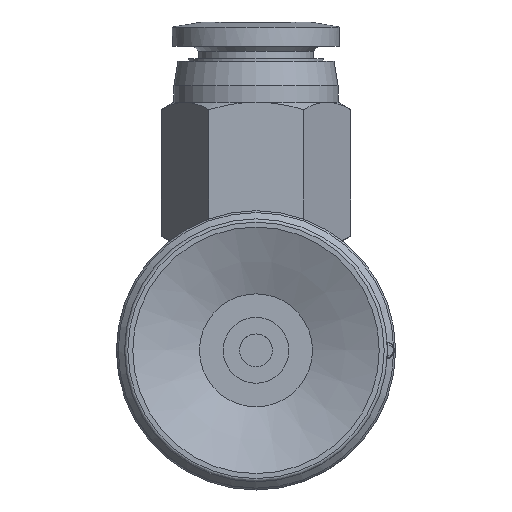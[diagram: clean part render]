
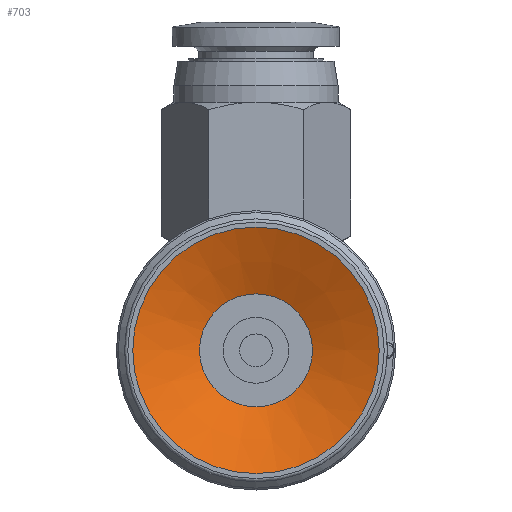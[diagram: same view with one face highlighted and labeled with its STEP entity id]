
A CAD part, front view. The second image highlights one B-rep face of the part: STEP entity #703.
In plain terms, the highlighted conical face has half-angle 67.5 degrees and reference radius 3.437 mm.
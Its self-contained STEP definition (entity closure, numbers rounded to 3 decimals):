
#703=ADVANCED_FACE('',(#1035,#1036),#1037,.F.);
#1035=FACE_BOUND('',#2491,.T.);
#1036=FACE_OUTER_BOUND('',#2492,.T.);
#1037=CONICAL_SURFACE('',#2493,3.437,1.178);
#2491=EDGE_LOOP('',(#3631));
#2492=EDGE_LOOP('',(#3632));
#2493=AXIS2_PLACEMENT_3D('',#3633,#3634,#3635);
#3631=ORIENTED_EDGE('',*,*,#4269,.F.);
#3632=ORIENTED_EDGE('',*,*,#4270,.T.);
#3633=CARTESIAN_POINT('',(0.0,0.0,1.683));
#3634=DIRECTION('',(0.0,0.,-1.0));
#3635=DIRECTION('',(0.0,1.0,0.));
#4269=EDGE_CURVE('',#4744,#4744,#4745,.T.);
#4270=EDGE_CURVE('',#4746,#4746,#4747,.T.);
#4744=VERTEX_POINT('',#5927);
#4745=CIRCLE('',#5928,3.437);
#4746=VERTEX_POINT('',#5929);
#4747=CIRCLE('',#5930,7.5);
#5927=CARTESIAN_POINT('',(-3.437,0.0,1.683));
#5928=AXIS2_PLACEMENT_3D('',#6711,#6712,#6713);
#5929=CARTESIAN_POINT('',(-7.5,0.0,0.));
#5930=AXIS2_PLACEMENT_3D('',#6714,#6715,#6716);
#6711=CARTESIAN_POINT('',(0.0,0.0,1.683));
#6712=DIRECTION('',(0.0,0.,-1.0));
#6713=DIRECTION('',(0.0,1.0,0.));
#6714=CARTESIAN_POINT('',(0.0,0.0,0.));
#6715=DIRECTION('',(0.0,0.,-1.0));
#6716=DIRECTION('',(0.0,1.0,0.));
